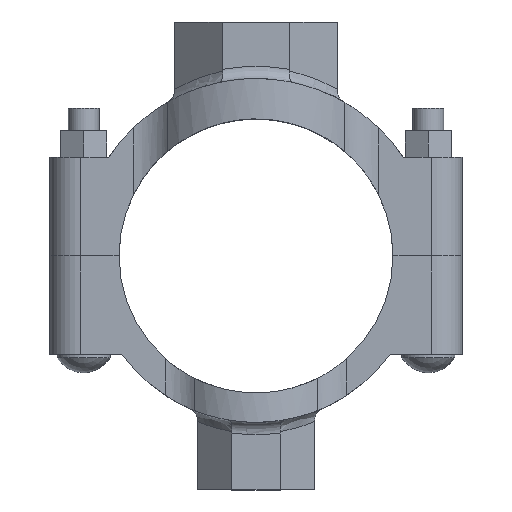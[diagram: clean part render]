
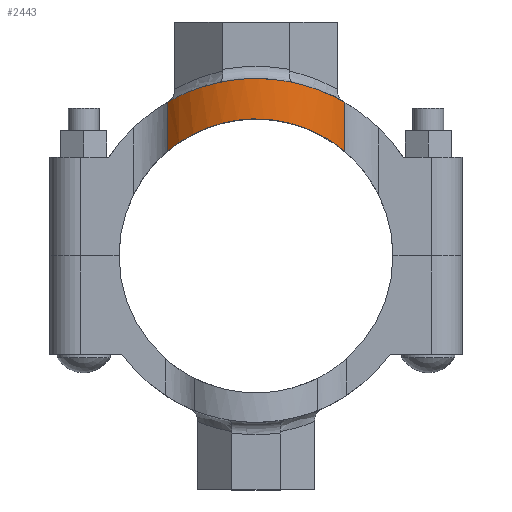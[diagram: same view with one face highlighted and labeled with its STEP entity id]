
A CAD part, top view. The second image highlights one B-rep face of the part: STEP entity #2443.
In plain terms, the highlighted cylindrical face has radius 58.801 mm (diameter 117.602 mm), a partial arc.
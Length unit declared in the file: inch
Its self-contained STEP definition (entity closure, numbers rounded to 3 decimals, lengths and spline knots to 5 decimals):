
#71=B_SPLINE_CURVE_WITH_KNOTS('',3,(#3967,#3968,#3969,#3970,#3971,#3972,
#3973,#3974,#3975,#3976,#3977,#3978,#3979,#3980,#3981,#3982,#3983,#3984,
#3985,#3986,#3987,#3988),.UNSPECIFIED.,.F.,.F.,(4,2,2,2,2,2,2,2,2,2,4),
(3.96099,4.61842,5.76249,6.90655,8.05062,
9.19468,10.33875,11.48281,12.62688,13.77094,
14.42838),.UNSPECIFIED.);
#75=B_SPLINE_CURVE_WITH_KNOTS('',3,(#4232,#4233,#4234,#4235,#4236,#4237,
#4238,#4239,#4240,#4241,#4242,#4243,#4244,#4245,#4246,#4247,#4248,#4249,
#4250,#4251,#4252,#4253),.UNSPECIFIED.,.F.,.F.,(4,2,2,2,2,2,2,2,2,2,4),
(23.38464,24.08328,25.25786,26.43243,27.60701,
28.78159,29.95616,31.13074,32.30531,33.47989,
34.17853),.UNSPECIFIED.);
#134=CYLINDRICAL_SURFACE('',#2689,2.315);
#245=FACE_OUTER_BOUND('',#386,.T.);
#386=EDGE_LOOP('',(#1802,#1803,#1804,#1805));
#558=LINE('',#4336,#742);
#559=LINE('',#4338,#743);
#742=VECTOR('',#3122,0.3937);
#743=VECTOR('',#3125,0.3937);
#986=VERTEX_POINT('',#3953);
#987=VERTEX_POINT('',#3966);
#1038=VERTEX_POINT('',#4218);
#1039=VERTEX_POINT('',#4231);
#1239=EDGE_CURVE('',#987,#986,#71,.T.);
#1314=EDGE_CURVE('',#1039,#1038,#75,.T.);
#1330=EDGE_CURVE('',#1039,#986,#558,.T.);
#1331=EDGE_CURVE('',#1038,#987,#559,.T.);
#1802=ORIENTED_EDGE('',*,*,#1314,.T.);
#1803=ORIENTED_EDGE('',*,*,#1331,.T.);
#1804=ORIENTED_EDGE('',*,*,#1239,.T.);
#1805=ORIENTED_EDGE('',*,*,#1330,.F.);
#2443=ADVANCED_FACE('',(#245),#134,.T.);
#2689=AXIS2_PLACEMENT_3D('',#4337,#3123,#3124);
#3122=DIRECTION('',(0.,1.,0.));
#3123=DIRECTION('center_axis',(0.,1.,0.));
#3124=DIRECTION('ref_axis',(0.779,0.,-0.628));
#3125=DIRECTION('',(0.,1.,0.));
#3953=CARTESIAN_POINT('',(1.80242,3.11629,-1.45276));
#3966=CARTESIAN_POINT('',(-1.80242,3.11629,-1.45276));
#3967=CARTESIAN_POINT('Ctrl Pts',(-1.80242,3.11629,-1.45276));
#3968=CARTESIAN_POINT('Ctrl Pts',(-1.74981,3.14672,-1.51803));
#3969=CARTESIAN_POINT('Ctrl Pts',(-1.69434,3.17701,-1.57957));
#3970=CARTESIAN_POINT('Ctrl Pts',(-1.5371,3.25729,-1.73681));
#3971=CARTESIAN_POINT('Ctrl Pts',(-1.42394,3.30909,-1.83142));
#3972=CARTESIAN_POINT('Ctrl Pts',(-1.1758,3.40517,-1.9998));
#3973=CARTESIAN_POINT('Ctrl Pts',(-1.04081,3.44938,-2.07357));
#3974=CARTESIAN_POINT('Ctrl Pts',(-0.7567,3.52263,-2.19326));
#3975=CARTESIAN_POINT('Ctrl Pts',(-0.60728,3.5517,-2.23928));
#3976=CARTESIAN_POINT('Ctrl Pts',(-0.304,3.5904,-2.30016));
#3977=CARTESIAN_POINT('Ctrl Pts',(-0.15014,3.6,-2.315));
#3978=CARTESIAN_POINT('Ctrl Pts',(0.15014,3.6,-2.315));
#3979=CARTESIAN_POINT('Ctrl Pts',(0.304,3.5904,-2.30016));
#3980=CARTESIAN_POINT('Ctrl Pts',(0.60728,3.5517,-2.23928));
#3981=CARTESIAN_POINT('Ctrl Pts',(0.7567,3.52263,-2.19326));
#3982=CARTESIAN_POINT('Ctrl Pts',(1.04081,3.44938,-2.07357));
#3983=CARTESIAN_POINT('Ctrl Pts',(1.1758,3.40517,-1.9998));
#3984=CARTESIAN_POINT('Ctrl Pts',(1.42394,3.30909,-1.83142));
#3985=CARTESIAN_POINT('Ctrl Pts',(1.5371,3.25729,-1.73681));
#3986=CARTESIAN_POINT('Ctrl Pts',(1.69434,3.17701,-1.57957));
#3987=CARTESIAN_POINT('Ctrl Pts',(1.74981,3.14672,-1.51803));
#3988=CARTESIAN_POINT('Ctrl Pts',(1.80242,3.11629,-1.45276));
#4218=CARTESIAN_POINT('',(-1.80242,2.1185,-1.45276));
#4231=CARTESIAN_POINT('',(1.80242,2.1185,-1.45276));
#4232=CARTESIAN_POINT('Ctrl Pts',(1.80242,2.1185,-1.45276));
#4233=CARTESIAN_POINT('Ctrl Pts',(1.75003,2.16307,-1.51776));
#4234=CARTESIAN_POINT('Ctrl Pts',(1.6946,2.20685,-1.57931));
#4235=CARTESIAN_POINT('Ctrl Pts',(1.54004,2.31935,-1.73386));
#4236=CARTESIAN_POINT('Ctrl Pts',(1.4296,2.39001,-1.82684));
#4237=CARTESIAN_POINT('Ctrl Pts',(1.18548,2.52002,-1.99393));
#4238=CARTESIAN_POINT('Ctrl Pts',(1.05178,2.57934,-2.06803));
#4239=CARTESIAN_POINT('Ctrl Pts',(0.76823,2.67751,-2.18925));
#4240=CARTESIAN_POINT('Ctrl Pts',(0.61804,2.71643,-2.23647));
#4241=CARTESIAN_POINT('Ctrl Pts',(0.311,2.76844,-2.29936));
#4242=CARTESIAN_POINT('Ctrl Pts',(0.15414,2.7815,-2.315));
#4243=CARTESIAN_POINT('Ctrl Pts',(-0.15414,2.7815,-2.315));
#4244=CARTESIAN_POINT('Ctrl Pts',(-0.311,2.76844,-2.29936));
#4245=CARTESIAN_POINT('Ctrl Pts',(-0.61804,2.71643,-2.23647));
#4246=CARTESIAN_POINT('Ctrl Pts',(-0.76823,2.67751,-2.18925));
#4247=CARTESIAN_POINT('Ctrl Pts',(-1.05178,2.57934,-2.06803));
#4248=CARTESIAN_POINT('Ctrl Pts',(-1.18548,2.52002,-1.99393));
#4249=CARTESIAN_POINT('Ctrl Pts',(-1.4296,2.39001,-1.82684));
#4250=CARTESIAN_POINT('Ctrl Pts',(-1.54004,2.31935,-1.73386));
#4251=CARTESIAN_POINT('Ctrl Pts',(-1.6946,2.20685,-1.57931));
#4252=CARTESIAN_POINT('Ctrl Pts',(-1.75003,2.16307,-1.51776));
#4253=CARTESIAN_POINT('Ctrl Pts',(-1.80242,2.1185,-1.45276));
#4336=CARTESIAN_POINT('',(1.80242,0.,-1.45276));
#4337=CARTESIAN_POINT('Origin',(0.,0.,0.));
#4338=CARTESIAN_POINT('',(-1.80242,0.,-1.45276));
